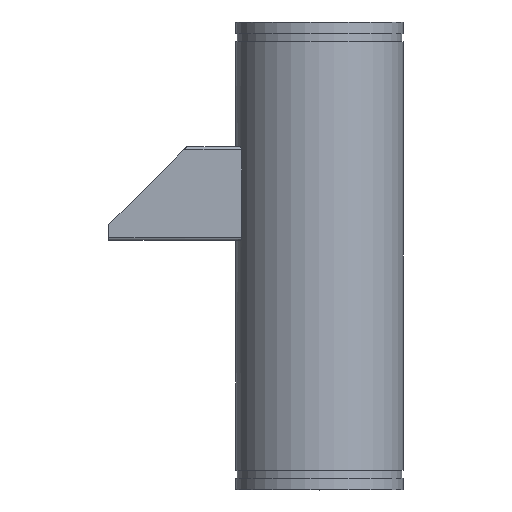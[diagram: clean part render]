
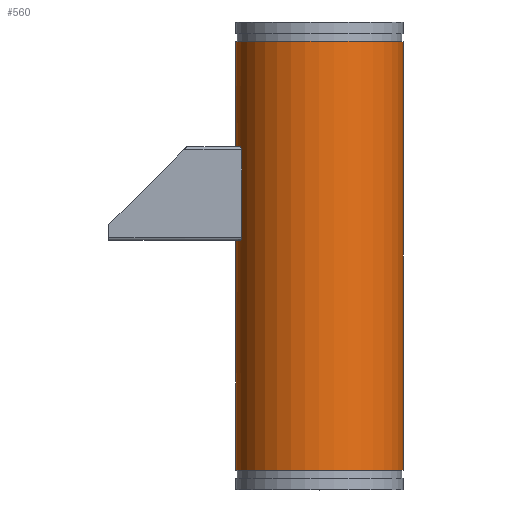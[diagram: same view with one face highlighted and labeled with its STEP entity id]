
A CAD part, top view. The second image highlights one B-rep face of the part: STEP entity #560.
In plain terms, the highlighted cylindrical face has radius 136.525 mm (diameter 273.05 mm), a full revolution.
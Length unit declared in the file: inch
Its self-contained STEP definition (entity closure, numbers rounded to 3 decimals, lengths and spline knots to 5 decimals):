
#22=CIRCLE('',#603,5.375);
#23=CIRCLE('',#604,5.375);
#32=CIRCLE('',#621,5.375);
#33=CIRCLE('',#622,5.375);
#34=CIRCLE('',#623,5.375);
#35=CIRCLE('',#624,5.375);
#36=CIRCLE('',#625,5.375);
#37=CIRCLE('',#626,5.375);
#83=FACE_OUTER_BOUND('',#111,.T.);
#111=EDGE_LOOP('',(#407,#408,#409,#410,#411,#412,#413,#414,#415,#416,#417,
#418,#419,#420,#421,#422,#423,#424));
#136=B_SPLINE_CURVE_WITH_KNOTS('',3,(#837,#838,#839,#840,#841,#842,#843,
#844,#845,#846),.UNSPECIFIED.,.F.,.F.,(4,2,2,2,4),(0.,0.19094,
0.38189,0.58679,0.79169),.UNSPECIFIED.);
#137=B_SPLINE_CURVE_WITH_KNOTS('',3,(#863,#864,#865,#866,#867,#868,#869,
#870,#871,#872),.UNSPECIFIED.,.F.,.F.,(4,2,2,2,4),(-0.79169,-0.58679,
-0.38189,-0.19094,0.),.UNSPECIFIED.);
#138=B_SPLINE_CURVE_WITH_KNOTS('',3,(#883,#884,#885,#886,#887,#888,#889,
#890,#891,#892),.UNSPECIFIED.,.F.,.F.,(4,2,2,2,4),(0.7867,0.9916,
1.1965,1.38745,1.57839),.UNSPECIFIED.);
#139=B_SPLINE_CURVE_WITH_KNOTS('',3,(#914,#915,#916,#917,#918,#919,#920,
#921,#922,#923),.UNSPECIFIED.,.F.,.F.,(4,2,2,2,4),(1.57839,1.77279,
1.9672,2.16865,2.3701),.UNSPECIFIED.);
#142=LINE('',#850,#180);
#160=LINE('',#927,#198);
#167=LINE('',#959,#205);
#168=LINE('',#962,#206);
#180=VECTOR('',#671,0.3937);
#198=VECTOR('',#711,0.3937);
#205=VECTOR('',#742,5.375);
#206=VECTOR('',#745,5.375);
#220=VERTEX_POINT('',#834);
#221=VERTEX_POINT('',#836);
#222=VERTEX_POINT('',#849);
#227=VERTEX_POINT('',#860);
#228=VERTEX_POINT('',#862);
#229=VERTEX_POINT('',#876);
#231=VERTEX_POINT('',#882);
#239=VERTEX_POINT('',#911);
#240=VERTEX_POINT('',#913);
#251=VERTEX_POINT('',#954);
#252=VERTEX_POINT('',#955);
#253=VERTEX_POINT('',#958);
#254=VERTEX_POINT('',#961);
#255=VERTEX_POINT('',#963);
#276=EDGE_CURVE('',#220,#221,#136,.F.);
#278=EDGE_CURVE('',#222,#221,#142,.T.);
#284=EDGE_CURVE('',#227,#228,#137,.F.);
#287=EDGE_CURVE('',#229,#228,#22,.T.);
#288=EDGE_CURVE('',#220,#229,#23,.T.);
#290=EDGE_CURVE('',#222,#231,#138,.F.);
#301=EDGE_CURVE('',#239,#240,#139,.F.);
#304=EDGE_CURVE('',#227,#240,#160,.T.);
#317=EDGE_CURVE('',#251,#252,#32,.T.);
#318=EDGE_CURVE('',#252,#251,#33,.T.);
#319=EDGE_CURVE('',#252,#253,#167,.T.);
#320=EDGE_CURVE('',#253,#231,#34,.T.);
#321=EDGE_CURVE('',#229,#254,#168,.T.);
#322=EDGE_CURVE('',#254,#255,#35,.T.);
#323=EDGE_CURVE('',#255,#254,#36,.T.);
#324=EDGE_CURVE('',#239,#253,#37,.T.);
#407=ORIENTED_EDGE('',*,*,#317,.F.);
#408=ORIENTED_EDGE('',*,*,#318,.F.);
#409=ORIENTED_EDGE('',*,*,#319,.T.);
#410=ORIENTED_EDGE('',*,*,#320,.T.);
#411=ORIENTED_EDGE('',*,*,#290,.F.);
#412=ORIENTED_EDGE('',*,*,#278,.T.);
#413=ORIENTED_EDGE('',*,*,#276,.F.);
#414=ORIENTED_EDGE('',*,*,#288,.T.);
#415=ORIENTED_EDGE('',*,*,#321,.T.);
#416=ORIENTED_EDGE('',*,*,#322,.T.);
#417=ORIENTED_EDGE('',*,*,#323,.T.);
#418=ORIENTED_EDGE('',*,*,#321,.F.);
#419=ORIENTED_EDGE('',*,*,#287,.T.);
#420=ORIENTED_EDGE('',*,*,#284,.F.);
#421=ORIENTED_EDGE('',*,*,#304,.T.);
#422=ORIENTED_EDGE('',*,*,#301,.F.);
#423=ORIENTED_EDGE('',*,*,#324,.T.);
#424=ORIENTED_EDGE('',*,*,#319,.F.);
#514=CYLINDRICAL_SURFACE('',#620,5.375);
#560=ADVANCED_FACE('',(#83),#514,.T.);
#603=AXIS2_PLACEMENT_3D('',#877,#684,#685);
#604=AXIS2_PLACEMENT_3D('',#878,#686,#687);
#620=AXIS2_PLACEMENT_3D('',#953,#736,#737);
#621=AXIS2_PLACEMENT_3D('',#956,#738,#739);
#622=AXIS2_PLACEMENT_3D('',#957,#740,#741);
#623=AXIS2_PLACEMENT_3D('',#960,#743,#744);
#624=AXIS2_PLACEMENT_3D('',#964,#746,#747);
#625=AXIS2_PLACEMENT_3D('',#965,#748,#749);
#626=AXIS2_PLACEMENT_3D('',#966,#750,#751);
#671=DIRECTION('',(0.,1.,0.));
#684=DIRECTION('center_axis',(0.,1.,0.));
#685=DIRECTION('ref_axis',(1.,0.,0.));
#686=DIRECTION('center_axis',(0.,1.,0.));
#687=DIRECTION('ref_axis',(1.,0.,0.));
#711=DIRECTION('',(0.,-1.,0.));
#736=DIRECTION('center_axis',(0.,-1.,0.));
#737=DIRECTION('ref_axis',(1.,0.,0.));
#738=DIRECTION('center_axis',(0.,-1.,0.));
#739=DIRECTION('ref_axis',(1.,0.,0.));
#740=DIRECTION('center_axis',(0.,-1.,0.));
#741=DIRECTION('ref_axis',(1.,0.,0.));
#742=DIRECTION('',(0.,1.,0.));
#743=DIRECTION('center_axis',(0.,-1.,0.));
#744=DIRECTION('ref_axis',(1.,0.,0.));
#745=DIRECTION('',(0.,1.,0.));
#746=DIRECTION('center_axis',(0.,-1.,0.));
#747=DIRECTION('ref_axis',(1.,0.,0.));
#748=DIRECTION('center_axis',(0.,-1.,0.));
#749=DIRECTION('ref_axis',(1.,0.,0.));
#750=DIRECTION('center_axis',(0.,-1.,0.));
#751=DIRECTION('ref_axis',(1.,0.,0.));
#834=CARTESIAN_POINT('',(-5.06464,22.,-1.8));
#836=CARTESIAN_POINT('',(-4.98905,21.8,-2.));
#837=CARTESIAN_POINT('Ctrl Pts',(-4.98905,21.8,-2.));
#838=CARTESIAN_POINT('Ctrl Pts',(-4.98905,21.82506,-2.));
#839=CARTESIAN_POINT('Ctrl Pts',(-4.99107,21.85164,-1.99499));
#840=CARTESIAN_POINT('Ctrl Pts',(-4.99899,21.90022,-1.97506));
#841=CARTESIAN_POINT('Ctrl Pts',(-5.00488,21.92224,-1.96014));
#842=CARTESIAN_POINT('Ctrl Pts',(-5.01845,21.95815,-1.92514));
#843=CARTESIAN_POINT('Ctrl Pts',(-5.02719,21.97399,-1.90228));
#844=CARTESIAN_POINT('Ctrl Pts',(-5.04579,21.99491,-1.85238));
#845=CARTESIAN_POINT('Ctrl Pts',(-5.05564,22.,-1.82534));
#846=CARTESIAN_POINT('Ctrl Pts',(-5.06464,22.,-1.8));
#849=CARTESIAN_POINT('',(-4.98905,16.2,-2.));
#850=CARTESIAN_POINT('',(-4.98905,15.,-2.));
#860=CARTESIAN_POINT('',(-4.98905,21.8,2.));
#862=CARTESIAN_POINT('',(-5.06464,22.,1.8));
#863=CARTESIAN_POINT('Ctrl Pts',(-5.06464,22.,1.8));
#864=CARTESIAN_POINT('Ctrl Pts',(-5.05564,22.,1.82534));
#865=CARTESIAN_POINT('Ctrl Pts',(-5.04579,21.99491,1.85238));
#866=CARTESIAN_POINT('Ctrl Pts',(-5.02719,21.97399,1.90228));
#867=CARTESIAN_POINT('Ctrl Pts',(-5.01845,21.95815,1.92514));
#868=CARTESIAN_POINT('Ctrl Pts',(-5.00488,21.92224,1.96014));
#869=CARTESIAN_POINT('Ctrl Pts',(-4.99899,21.90022,1.97506));
#870=CARTESIAN_POINT('Ctrl Pts',(-4.99107,21.85164,1.99499));
#871=CARTESIAN_POINT('Ctrl Pts',(-4.98905,21.82506,2.));
#872=CARTESIAN_POINT('Ctrl Pts',(-4.98905,21.8,2.));
#876=CARTESIAN_POINT('',(-5.375,22.,0.));
#877=CARTESIAN_POINT('Origin',(0.,22.,0.));
#878=CARTESIAN_POINT('Origin',(0.,22.,0.));
#882=CARTESIAN_POINT('',(-5.06464,16.,-1.8));
#883=CARTESIAN_POINT('Ctrl Pts',(-5.06464,16.,-1.8));
#884=CARTESIAN_POINT('Ctrl Pts',(-5.05564,16.,-1.82534));
#885=CARTESIAN_POINT('Ctrl Pts',(-5.04579,16.00509,-1.85238));
#886=CARTESIAN_POINT('Ctrl Pts',(-5.02719,16.02601,-1.90228));
#887=CARTESIAN_POINT('Ctrl Pts',(-5.01845,16.04185,-1.92514));
#888=CARTESIAN_POINT('Ctrl Pts',(-5.00488,16.07776,-1.96014));
#889=CARTESIAN_POINT('Ctrl Pts',(-4.99899,16.09978,-1.97506));
#890=CARTESIAN_POINT('Ctrl Pts',(-4.99107,16.14836,-1.99499));
#891=CARTESIAN_POINT('Ctrl Pts',(-4.98905,16.17494,-2.));
#892=CARTESIAN_POINT('Ctrl Pts',(-4.98905,16.2,-2.));
#911=CARTESIAN_POINT('',(-5.06464,16.,1.8));
#913=CARTESIAN_POINT('',(-4.98905,16.2,2.));
#914=CARTESIAN_POINT('Ctrl Pts',(-4.98905,16.2,2.));
#915=CARTESIAN_POINT('Ctrl Pts',(-4.98905,16.17449,2.));
#916=CARTESIAN_POINT('Ctrl Pts',(-4.99114,16.14746,1.99481));
#917=CARTESIAN_POINT('Ctrl Pts',(-4.99932,16.09821,1.97422));
#918=CARTESIAN_POINT('Ctrl Pts',(-5.0054,16.07598,1.95882));
#919=CARTESIAN_POINT('Ctrl Pts',(-5.01912,16.04055,1.92339));
#920=CARTESIAN_POINT('Ctrl Pts',(-5.02776,16.0252,1.90076));
#921=CARTESIAN_POINT('Ctrl Pts',(-5.04611,16.00492,1.85152));
#922=CARTESIAN_POINT('Ctrl Pts',(-5.05579,16.,1.82491));
#923=CARTESIAN_POINT('Ctrl Pts',(-5.06464,16.,1.8));
#927=CARTESIAN_POINT('',(-4.98905,15.,2.));
#953=CARTESIAN_POINT('Origin',(0.,15.,0.));
#954=CARTESIAN_POINT('',(5.375,1.25,0.));
#955=CARTESIAN_POINT('',(-5.375,1.25,0.));
#956=CARTESIAN_POINT('Origin',(0.,1.25,0.));
#957=CARTESIAN_POINT('Origin',(0.,1.25,0.));
#958=CARTESIAN_POINT('',(-5.375,16.,0.));
#959=CARTESIAN_POINT('',(-5.375,15.,0.));
#960=CARTESIAN_POINT('Origin',(0.,16.,0.));
#961=CARTESIAN_POINT('',(-5.375,28.75,0.));
#962=CARTESIAN_POINT('',(-5.375,15.,0.));
#963=CARTESIAN_POINT('',(5.375,28.75,0.));
#964=CARTESIAN_POINT('Origin',(0.,28.75,0.));
#965=CARTESIAN_POINT('Origin',(0.,28.75,0.));
#966=CARTESIAN_POINT('Origin',(0.,16.,0.));
